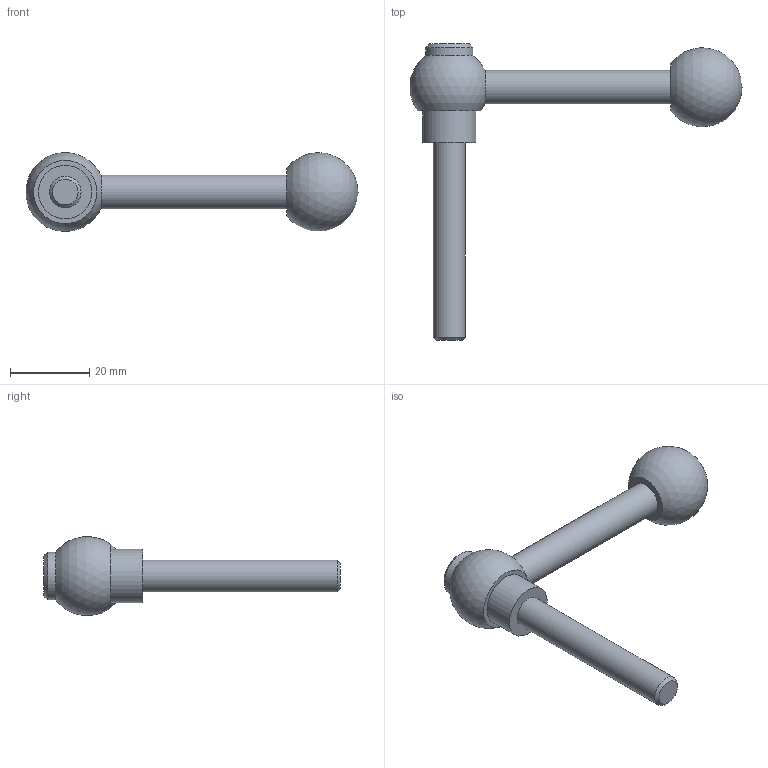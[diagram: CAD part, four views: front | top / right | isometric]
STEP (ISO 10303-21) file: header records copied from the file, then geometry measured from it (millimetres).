
FILE_DESCRIPTION( ( 'STEP AP203' ), '1' );
FILE_NAME( 'C:/Temp/Ganter_Step_05_03_2020/data/2_1/gn_6337_3/gn_6337_3_ms/gn_6337_3_ms_m/Adjustable clamping lever with bolt GN 6337.3-20-M8-50-M.stp', '2020-03-05T11:41:13', ( 'License CC BY-ND 4.0' ), ( 'CADENAS' ), ' ', 'PARTsolutions', ' ' );
FILE_SCHEMA( ( 'CONFIG_CONTROL_DESIGN' ) );
Length unit declared in the file: millimetre
Products named in the file (1): _Adjustable clamping lever with bolt GN 6337.3-20-M8-50-M
Bounding box: 83.92 x 75 x 19.98 mm (x, y, z)
Volume: 14317.1 mm3; surface area: 5248.8 mm2
Topology: 1 solids, 1 shells, 13 faces, 23 edges, 15 vertices
Faces by surface type: plane 5, cylinder 4, cone 2, sphere 2
Full cylindrical faces by diameter (mm): 8 x1, 8.5 x1, 12 x1, 13.5 x1
Entity records: 302 total; most frequent: DIRECTION 52, CARTESIAN_POINT 39, AXIS2_PLACEMENT_3D 26, EDGE_LOOP 24, ORIENTED_EDGE 24, FACE_OUTER_BOUND 18, ADVANCED_FACE 13, VERTEX_POINT 13
